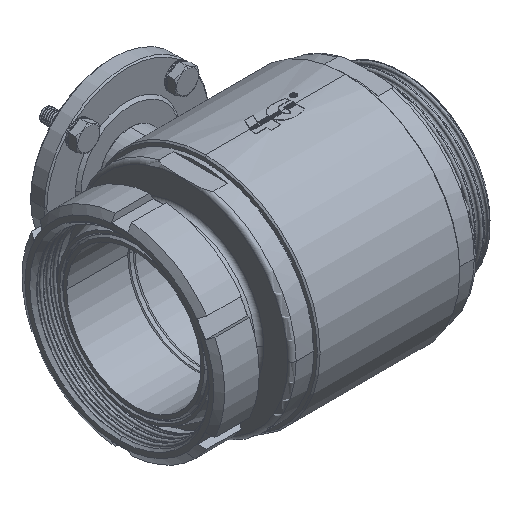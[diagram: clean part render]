
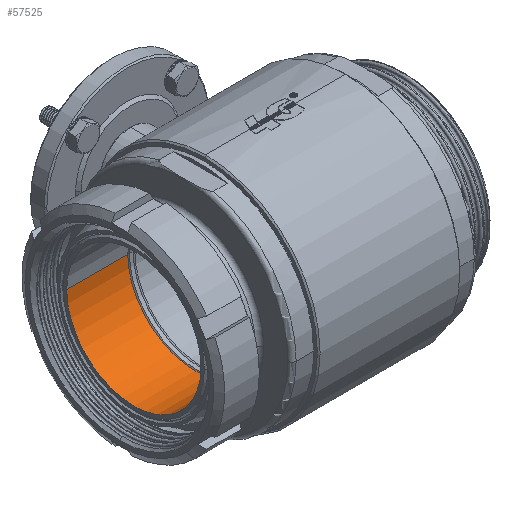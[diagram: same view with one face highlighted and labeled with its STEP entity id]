
A CAD part, isometric view. The second image highlights one B-rep face of the part: STEP entity #57525.
In plain terms, the highlighted cylindrical face has radius 49 mm (diameter 98 mm), a partial arc.
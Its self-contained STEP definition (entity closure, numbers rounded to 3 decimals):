
#57092=DIRECTION('',(-1.,0.,0.));
#57093=VECTOR('',#57092,44.6);
#57094=CARTESIAN_POINT('',(-58.9,-49.,0.));
#57095=LINE('',#57094,#57093);
#57096=DIRECTION('',(-1.,0.,0.));
#57097=VECTOR('',#57096,44.6);
#57098=CARTESIAN_POINT('',(-58.9,49.,0.));
#57099=LINE('',#57098,#57097);
#57100=CARTESIAN_POINT('',(-58.9,0.,0.));
#57101=DIRECTION('',(1.,0.,0.));
#57102=DIRECTION('',(0.,-1.,0.));
#57103=AXIS2_PLACEMENT_3D('',#57100,#57101,#57102);
#57296=CARTESIAN_POINT('',(-103.5,0.,0.));
#57297=DIRECTION('',(1.,0.,0.));
#57298=DIRECTION('',(0.,-1.,0.));
#57299=AXIS2_PLACEMENT_3D('',#57296,#57297,#57298);
#57378=CARTESIAN_POINT('',(-58.9,-49.,0.));
#57379=CARTESIAN_POINT('',(-103.5,-49.,0.));
#57380=VERTEX_POINT('',#57378);
#57381=VERTEX_POINT('',#57379);
#57382=CARTESIAN_POINT('',(-58.9,49.,0.));
#57383=CARTESIAN_POINT('',(-103.5,49.,0.));
#57384=VERTEX_POINT('',#57382);
#57385=VERTEX_POINT('',#57383);
#57512=CARTESIAN_POINT('',(-31.575,0.,0.));
#57513=DIRECTION('',(-1.,0.,0.));
#57514=DIRECTION('',(0.,1.,0.));
#57515=AXIS2_PLACEMENT_3D('',#57512,#57513,#57514);
#57516=CYLINDRICAL_SURFACE('',#57515,49.);
#57517=ORIENTED_EDGE('',*,*,#57443,.T.);
#57519=ORIENTED_EDGE('',*,*,#57518,.T.);
#57520=ORIENTED_EDGE('',*,*,#57447,.F.);
#57522=ORIENTED_EDGE('',*,*,#57521,.F.);
#57523=EDGE_LOOP('',(#57517,#57519,#57520,#57522));
#57524=FACE_OUTER_BOUND('',#57523,.F.);
#57525=ADVANCED_FACE('',(#57524),#57516,.F.);
#57104=CIRCLE('',#57103,49.);
#57300=CIRCLE('',#57299,49.);
#57443=EDGE_CURVE('',#57380,#57381,#57095,.T.);
#57447=EDGE_CURVE('',#57384,#57385,#57099,.T.);
#57518=EDGE_CURVE('',#57381,#57385,#57300,.T.);
#57521=EDGE_CURVE('',#57380,#57384,#57104,.T.);
